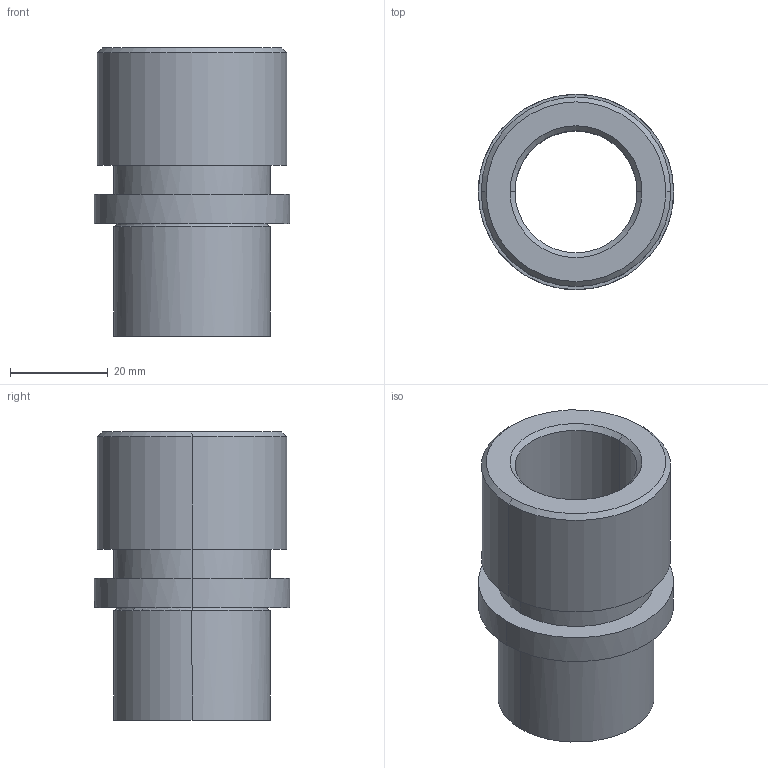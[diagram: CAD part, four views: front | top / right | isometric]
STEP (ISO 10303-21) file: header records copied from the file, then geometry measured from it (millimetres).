
FILE_DESCRIPTION(('CATIA V5 STEP Exchange'),'2;1');
FILE_NAME('C:\Users\Utente\Desktop\IO LAVORO\3D X SITO CF\X SITO\733\733-19.stp','2021-01-11T17:42:02+00:00',('none'),('none'),'CATIA Version 5 Release 20 GA (IN-10)','CATIA V5 STEP AP203','none');
FILE_SCHEMA(('CONFIG_CONTROL_DESIGN'));
Length unit declared in the file: millimetre
Products named in the file (1): 733-19
Assembly tree (1 placements, depth 2):
  733-19
    #58
Bounding box: 40 x 40 x 59 mm (x, y, z)
Volume: 30053 mm3; surface area: 13514.5 mm2
Topology: 1 solids, 1 shells, 25 faces, 50 edges, 30 vertices
Faces by surface type: cylinder 10, cone 6, plane 5, torus 4
Entity records: 851 total; most frequent: CARTESIAN_POINT 282, ORIENTED_EDGE 100, DIRECTION 96, AXIS2_PLACEMENT_3D 53, EDGE_CURVE 50, EDGE_LOOP 30, VERTEX_POINT 30, CIRCLE 26
